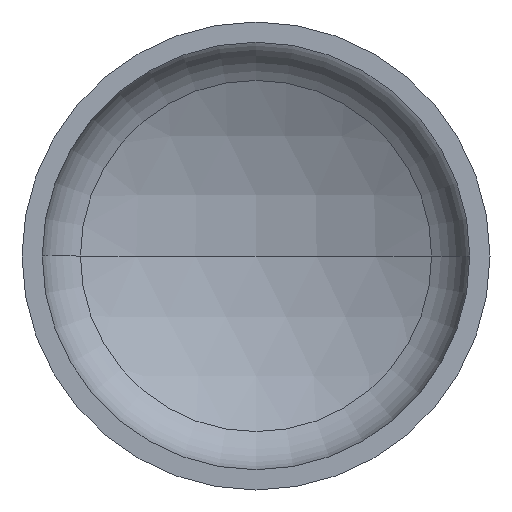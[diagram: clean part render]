
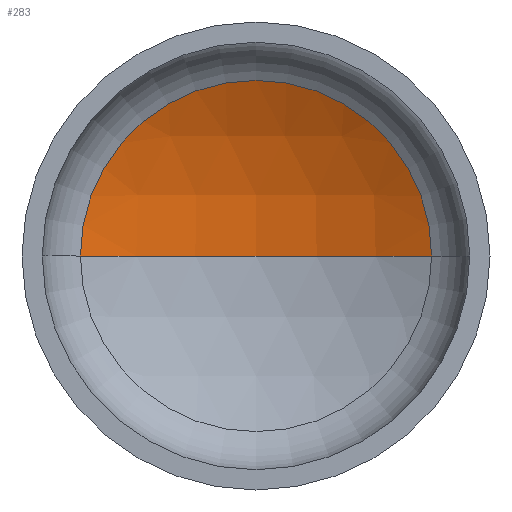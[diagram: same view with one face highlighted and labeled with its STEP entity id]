
A CAD part, front view. The second image highlights one B-rep face of the part: STEP entity #283.
In plain terms, the highlighted spherical face has radius 406 mm.
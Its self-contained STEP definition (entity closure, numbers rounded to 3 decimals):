
#16 = AXIS2_PLACEMENT_3D ( 'NONE', #395, #180, #83 ) ;
#17 = EDGE_LOOP ( 'NONE', ( #157, #82, #166 ) ) ;
#29 = AXIS2_PLACEMENT_3D ( 'NONE', #396, #259, #261 ) ;
#41 = AXIS2_PLACEMENT_3D ( 'NONE', #130, #164, #152 ) ;
#47 = VERTEX_POINT ( 'NONE', #292 ) ;
#59 = VERTEX_POINT ( 'NONE', #249 ) ;
#62 = AXIS2_PLACEMENT_3D ( 'NONE', #212, #200, #255 ) ;
#82 = ORIENTED_EDGE ( 'NONE', *, *, #342, .T. ) ;
#83 = DIRECTION ( 'NONE',  ( 1., 0., 0. ) ) ;
#99 = VERTEX_POINT ( 'NONE', #231 ) ;
#130 = CARTESIAN_POINT ( 'NONE',  ( 0., -219.6, 0. ) ) ;
#152 = DIRECTION ( 'NONE',  ( -1., 0., 0. ) ) ;
#157 = ORIENTED_EDGE ( 'NONE', *, *, #354, .F. ) ;
#164 = DIRECTION ( 'NONE',  ( 0., 0., -1. ) ) ;
#166 = ORIENTED_EDGE ( 'NONE', *, *, #366, .T. ) ;
#172 = CIRCLE ( 'NONE', #29, 406. ) ;
#180 = DIRECTION ( 'NONE',  ( 0., -1., 0. ) ) ;
#200 = DIRECTION ( 'NONE',  ( 0., 0., -1. ) ) ;
#212 = CARTESIAN_POINT ( 'NONE',  ( 0., -219.6, 0. ) ) ;
#231 = CARTESIAN_POINT ( 'NONE',  ( -190.622, 138.868, 0. ) ) ;
#249 = CARTESIAN_POINT ( 'NONE',  ( 190.622, 138.868, 0. ) ) ;
#252 = CIRCLE ( 'NONE', #41, 406. ) ;
#255 = DIRECTION ( 'NONE',  ( -1., 0., 0. ) ) ;
#259 = DIRECTION ( 'NONE',  ( 0., 0., 1. ) ) ;
#261 = DIRECTION ( 'NONE',  ( 1., 0., 0. ) ) ;
#262 = FACE_OUTER_BOUND ( 'NONE', #17, .T. ) ;
#283 = ADVANCED_FACE ( 'NONE', ( #262 ), #316, .F. ) ;
#291 = CIRCLE ( 'NONE', #16, 190.622 ) ;
#292 = CARTESIAN_POINT ( 'NONE',  ( 0., 186.4, 0. ) ) ;
#316 = SPHERICAL_SURFACE ( 'NONE', #62, 406. ) ;
#342 = EDGE_CURVE ( 'NONE', #47, #59, #252, .T. ) ;
#354 = EDGE_CURVE ( 'NONE', #47, #99, #172, .T. ) ;
#366 = EDGE_CURVE ( 'NONE', #59, #99, #291, .T. ) ;
#395 = CARTESIAN_POINT ( 'NONE',  ( 0., 138.868, 0. ) ) ;
#396 = CARTESIAN_POINT ( 'NONE',  ( 0., -219.6, 0. ) ) ;
